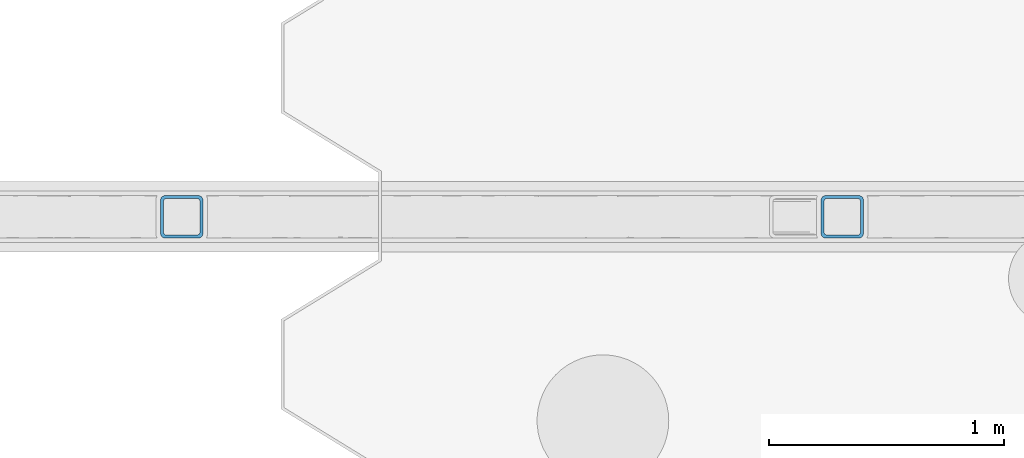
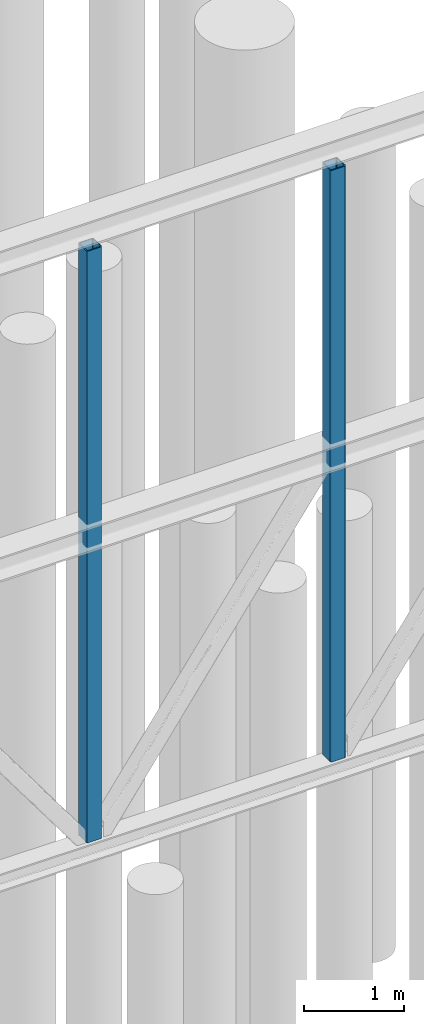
# One storey, part 13 of 104: 2 beams.
"""IFC2X3 building model written with IfcOpenShell, lengths in millimetres."""

from ifc_helpers import new_model, entity, si_unit, converted_unit, derived_unit, direction, frame, frame_2d, origin, place, context, subcontext, project, spatial, polyline, circle_curve, parameter, trimmed, segment, composite_curve, outline, extrude, material, type_object, element, save


model = new_model("IFC2X3")

# Units and contexts
model_context = context("Model", 3, precision=0.01, world=origin(), true_north=direction((6.12303176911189e-17, 1.0)))
body_context = subcontext(model_context, "Body", "Model", "MODEL_VIEW")
ifc_project = project(units=[si_unit("LENGTHUNIT", "METRE", prefix="MILLI"), si_unit("AREAUNIT", "SQUARE_METRE", prefix="MILLI"), si_unit("VOLUMEUNIT", "CUBIC_METRE"), converted_unit("PLANEANGLEUNIT", "DEGREE", entity("IfcRatioMeasure", 0.0174532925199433), si_unit("PLANEANGLEUNIT", "RADIAN"), dimensions=[0, 0, 0, 0, 0, 0, 0]), si_unit("MASSUNIT", "GRAM", prefix="KILO"), derived_unit("MASSDENSITYUNIT", [(si_unit("MASSUNIT", "GRAM", prefix="KILO"), 1), (si_unit("LENGTHUNIT", "METRE"), -3)]), derived_unit("MOMENTOFINERTIAUNIT", [(si_unit("LENGTHUNIT", "METRE"), 4)]), si_unit("TIMEUNIT", "SECOND"), si_unit("FREQUENCYUNIT", "HERTZ"), si_unit("THERMODYNAMICTEMPERATUREUNIT", "DEGREE_CELSIUS"), derived_unit("THERMALTRANSMITTANCEUNIT", [(si_unit("MASSUNIT", "GRAM", prefix="KILO"), 1), (si_unit("THERMODYNAMICTEMPERATUREUNIT", "KELVIN"), -1), (si_unit("TIMEUNIT", "SECOND"), -3)]), derived_unit("VOLUMETRICFLOWRATEUNIT", [(si_unit("LENGTHUNIT", "METRE"), 3), (si_unit("TIMEUNIT", "SECOND"), -1)]), si_unit("ELECTRICCURRENTUNIT", "AMPERE"), si_unit("ELECTRICVOLTAGEUNIT", "VOLT"), si_unit("POWERUNIT", "WATT"), si_unit("FORCEUNIT", "NEWTON", prefix="KILO"), si_unit("ILLUMINANCEUNIT", "LUX"), si_unit("LUMINOUSFLUXUNIT", "LUMEN"), si_unit("LUMINOUSINTENSITYUNIT", "CANDELA"), derived_unit("USERDEFINED", [(si_unit("MASSUNIT", "GRAM", prefix="KILO"), -1), (si_unit("LENGTHUNIT", "METRE"), -2), (si_unit("TIMEUNIT", "SECOND"), 3), (si_unit("LUMINOUSFLUXUNIT", "LUMEN"), 1)]), derived_unit("LINEARVELOCITYUNIT", [(si_unit("LENGTHUNIT", "METRE"), 1), (si_unit("TIMEUNIT", "SECOND"), -1)]), si_unit("PRESSUREUNIT", "PASCAL"), derived_unit("USERDEFINED", [(si_unit("LENGTHUNIT", "METRE"), -2), (si_unit("MASSUNIT", "GRAM", prefix="KILO"), 1), (si_unit("TIMEUNIT", "SECOND"), -2)]), derived_unit("LINEARFORCEUNIT", [(si_unit("MASSUNIT", "GRAM", prefix="KILO"), 1), (si_unit("LENGTHUNIT", "METRE"), 1), (si_unit("TIMEUNIT", "SECOND"), -2), (si_unit("LENGTHUNIT", "METRE"), -1)]), derived_unit("PLANARFORCEUNIT", [(si_unit("MASSUNIT", "GRAM", prefix="KILO"), 1), (si_unit("LENGTHUNIT", "METRE"), 1), (si_unit("TIMEUNIT", "SECOND"), -2), (si_unit("LENGTHUNIT", "METRE"), -2)])], contexts=[model_context])

# Site, building, storey
site_placement = place(None, origin())
site = spatial("IfcSite", under=ifc_project, at=site_placement, Name="Theater aan de Parade", CompositionType="ELEMENT")
building_placement = place(site_placement, origin())
building = spatial("IfcBuilding", under=site, at=building_placement, Name="Theater aan de Parade", CompositionType="ELEMENT")
storey_placement = place(building_placement, frame((0.0, 0.0, -5520.0)))
storey = spatial("IfcBuildingStorey", under=building, at=storey_placement, Name="-2 kelder", CompositionType="ELEMENT", Elevation=-5520.0)

# Beams
ifc_material = material(Name="00_PBT_MAT_staal_S355")
beam_type = type_object("IfcBeamType", Name="28_PBT_SF_staal_koker:S355_K180x180x12.5", PredefinedType="NOTDEFINED")
beam_1_placement = place(storey_placement, frame((73153.7330970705, 16197.0, 10250.0), z_axis=(1.0, 0.0, 0.0), x_axis=(0.0, 0.0, 1.0)))
element("IfcBeam", 1, at=beam_1_placement, inside=storey, type_object=beam_type, material=ifc_material, Name="28_PBT_SF_staal_koker:S355_K180x180x12.5", ObjectType="28_PBT_SF_staal_koker:S355_K180x180x12.5", context=body_context, shape_type="SweptSolid", body=[
    extrude(outline(composite_curve([segment(polyline([(-71.2500000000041, -90.0), (71.2499999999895, -90.0)]), True, "CONTINUOUS"), segment(trimmed(circle_curve(frame_2d((71.2499999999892, -71.25), x_axis=(0.0, 1.0)), 18.75), [parameter(180.0)], [parameter(270.0)], True, "PARAMETER"), True, "CONTINUOUS"), segment(polyline([(90.0, -71.2499999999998), (90.0, 71.2500000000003)]), True, "CONTINUOUS"), segment(trimmed(circle_curve(frame_2d((71.2499999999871, 71.25), x_axis=(0.0, 1.0)), 18.75), [parameter(270.0)], [parameter(360.0)], True, "PARAMETER"), True, "CONTINUOUS"), segment(polyline([(71.2499999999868, 90.0), (-71.2500000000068, 90.0)]), True, "CONTINUOUS"), segment(trimmed(circle_curve(frame_2d((-71.2500000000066, 71.2499999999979), x_axis=(0.0, 1.0)), 18.75), [parameter(0.0)], [parameter(90.0000000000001)], True, "PARAMETER"), True, "CONTINUOUS"), segment(polyline([(-90.0, 71.2499999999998), (-90.0, -71.2500000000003)]), True, "CONTINUOUS"), segment(trimmed(circle_curve(frame_2d((-71.2500000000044, -71.2500000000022), x_axis=(0.0, 1.0)), 18.75), [parameter(90.0)], [parameter(180.0)], True, "PARAMETER"), True, "CONTINUOUS")], self_intersect=False), holes=[composite_curve([segment(polyline([(77.49999999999, 65.0), (77.499999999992, -65.0)]), True, "CONTINUOUS"), segment(trimmed(circle_curve(frame_2d((65.0, -65.0), x_axis=(0.0, 1.0)), 12.5), [parameter(180.0)], [parameter(270.0)], True, "PARAMETER"), False, "CONTINUOUS"), segment(polyline([(65.0, -77.4999999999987), (-65.0, -77.5000000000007)]), True, "CONTINUOUS"), segment(trimmed(circle_curve(frame_2d((-65.0, -65.0), x_axis=(0.0, 1.0)), 12.5), [parameter(90.0)], [parameter(180.0)], True, "PARAMETER"), False, "CONTINUOUS"), segment(polyline([(-77.5000000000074, -65.0), (-77.5000000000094, 65.0)]), True, "CONTINUOUS"), segment(trimmed(circle_curve(frame_2d((-65.0, 65.0), x_axis=(0.0, 1.0)), 12.5), [parameter(4.07110999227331e-13)], [parameter(90.0000000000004)], True, "PARAMETER"), False, "CONTINUOUS"), segment(polyline([(-65.0, 77.4999999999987), (65.0, 77.5000000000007)]), True, "CONTINUOUS"), segment(trimmed(circle_curve(frame_2d((65.0, 65.0), x_axis=(0.0, 1.0)), 12.5), [parameter(270.0)], [parameter(0.0)], True, "PARAMETER"), False, "CONTINUOUS")], self_intersect=False)]), frame((122.700000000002, 0.0, 0.0), z_axis=(1.0, 0.0, 0.0), x_axis=(0.0, 0.0, 1.0)), (0.0, 0.0, 1.0), 7207.3),
])
beam_2_placement = place(storey_placement, frame((75962.8589693, 16197.0, 10250.0), z_axis=(1.0, 0.0, 0.0), x_axis=(0.0, 0.0, 1.0)))
element("IfcBeam", 2, at=beam_2_placement, inside=storey, type_object=beam_type, material=ifc_material, Name="28_PBT_SF_staal_koker:S355_K180x180x12.5", ObjectType="28_PBT_SF_staal_koker:S355_K180x180x12.5", context=body_context, shape_type="SweptSolid", body=[
    extrude(outline(composite_curve([segment(polyline([(-71.2499999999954, -90.0), (71.2499999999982, -90.0)]), True, "CONTINUOUS"), segment(trimmed(circle_curve(frame_2d((71.2499999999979, -71.25), x_axis=(0.0, 1.0)), 18.75), [parameter(180.0)], [parameter(270.0)], True, "PARAMETER"), True, "CONTINUOUS"), segment(polyline([(90.0, -71.2499999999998), (90.0, 71.2500000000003)]), True, "CONTINUOUS"), segment(trimmed(circle_curve(frame_2d((71.2499999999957, 71.25), x_axis=(0.0, 1.0)), 18.75), [parameter(270.0)], [parameter(360.0)], True, "PARAMETER"), True, "CONTINUOUS"), segment(polyline([(71.2499999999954, 90.0), (-71.2499999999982, 90.0)]), True, "CONTINUOUS"), segment(trimmed(circle_curve(frame_2d((-71.2499999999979, 71.2499999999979), x_axis=(0.0, 1.0)), 18.75), [parameter(0.0)], [parameter(90.0000000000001)], True, "PARAMETER"), True, "CONTINUOUS"), segment(polyline([(-90.0, 71.2499999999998), (-90.0, -71.2500000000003)]), True, "CONTINUOUS"), segment(trimmed(circle_curve(frame_2d((-71.2499999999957, -71.2500000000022), x_axis=(0.0, 1.0)), 18.75), [parameter(90.0)], [parameter(180.0)], True, "PARAMETER"), True, "CONTINUOUS")], self_intersect=False), holes=[composite_curve([segment(polyline([(77.4999999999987, 65.0), (77.5000000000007, -65.0)]), True, "CONTINUOUS"), segment(trimmed(circle_curve(frame_2d((65.0, -65.0), x_axis=(0.0, 1.0)), 12.5), [parameter(180.0)], [parameter(270.0)], True, "PARAMETER"), False, "CONTINUOUS"), segment(polyline([(65.0, -77.4999999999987), (-65.0, -77.5000000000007)]), True, "CONTINUOUS"), segment(trimmed(circle_curve(frame_2d((-65.0, -65.0), x_axis=(0.0, 1.0)), 12.5), [parameter(90.0)], [parameter(180.0)], True, "PARAMETER"), False, "CONTINUOUS"), segment(polyline([(-77.4999999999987, -65.0), (-77.5000000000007, 65.0)]), True, "CONTINUOUS"), segment(trimmed(circle_curve(frame_2d((-65.0, 65.0), x_axis=(0.0, 1.0)), 12.5), [parameter(4.07110999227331e-13)], [parameter(90.0000000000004)], True, "PARAMETER"), False, "CONTINUOUS"), segment(polyline([(-65.0, 77.4999999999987), (65.0, 77.5000000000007)]), True, "CONTINUOUS"), segment(trimmed(circle_curve(frame_2d((65.0, 65.0), x_axis=(0.0, 1.0)), 12.5), [parameter(270.0)], [parameter(0.0)], True, "PARAMETER"), False, "CONTINUOUS")], self_intersect=False)]), frame((122.700000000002, 0.0, 0.0), z_axis=(1.0, 0.0, 0.0), x_axis=(0.0, 0.0, 1.0)), (0.0, 0.0, 1.0), 7207.3),
])

save(model, "model.ifc")
